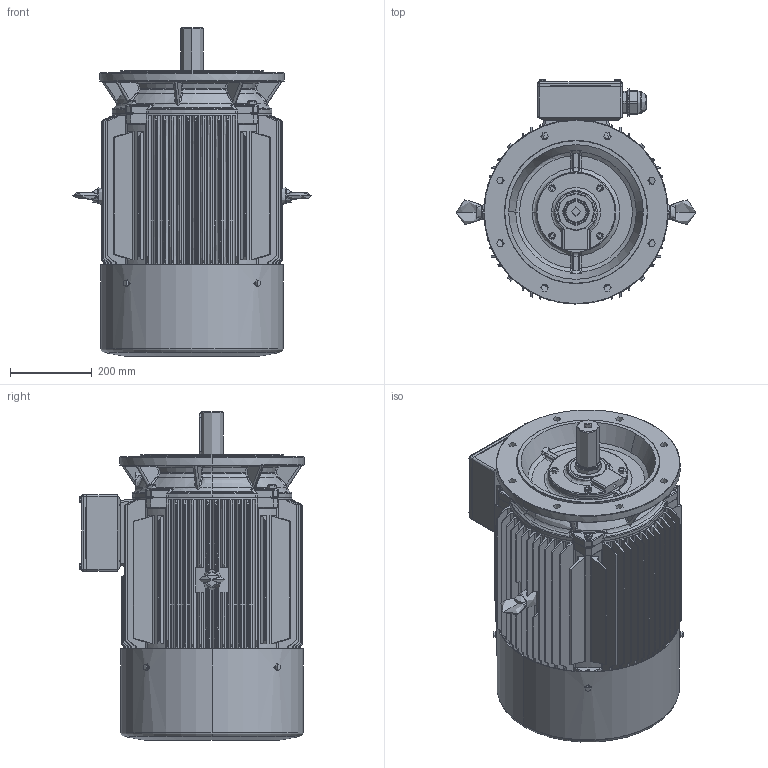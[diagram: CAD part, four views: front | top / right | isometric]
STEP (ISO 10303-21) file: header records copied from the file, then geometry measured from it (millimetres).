
FILE_DESCRIPTION(/* description */ (''),/* implementation_level */ '2;1');
FILE_NAME(/* name */ 'JM1-225M-2-B5.stp',/* time_stamp */ '2016-11-29T09:48:49+08:00',/* author */ (''),/* organization */ (''),/* preprocessor_version */ 'ST-DEVELOPER v16',/* originating_system */ 'SIEMENS PLM Software NX 10.0',/* authorisation */ '');
FILE_SCHEMA (('CONFIG_CONTROL_DESIGN'));
Products named in the file (1): JM1-225M-2-B5
Bounding box: 586.4 x 547.8 x 802.07 mm (x, y, z)
Volume: 21804719.4 mm3; surface area: 5329807.5 mm2
Topology: 59 solids, 59 shells, 8069 faces, 22451 edges, 14651 vertices
Faces by surface type: plane 3361, cylinder 3289, bspline 739, torus 405, cone 271, sphere 4
Full cylindrical faces by diameter (mm): 7.188 x4, 8 x8, 8.4 x4, 9.026 x8, 10 x8, 10.863 x8, 11.2 x8, 12 x8, 12.6 x8, 16 x4, 20 x1, 34.375 x2, 40.625 x4, 48.438 x12, 50 x4, 51.562 x12, 53.906 x2, 66.406 x2, 368 x1, 378 x1
Entity records: 302551 total; most frequent: CARTESIAN_POINT 96498, ORIENTED_EDGE 44212, DIRECTION 41484, EDGE_CURVE 22106, AXIS2_PLACEMENT_3D 14877, VERTEX_POINT 14542, LINE 11730, VECTOR 11730
